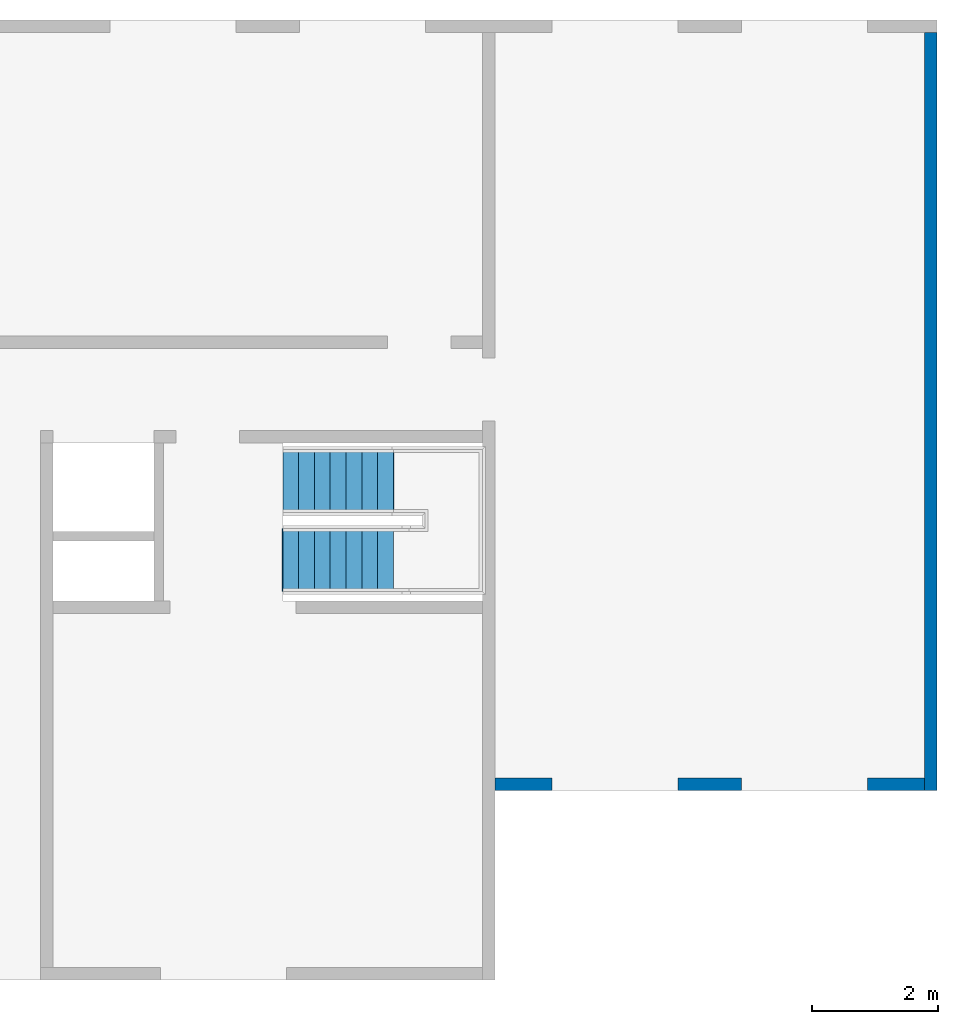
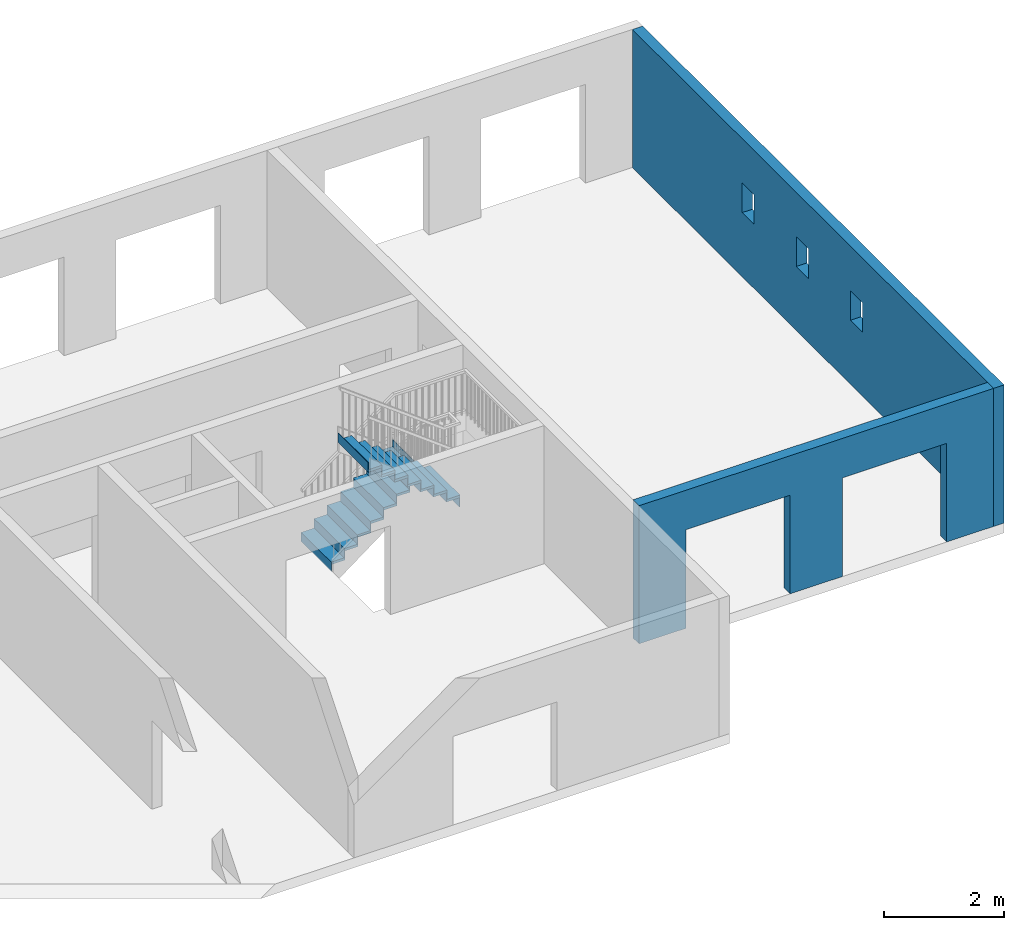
# One storey, part 2 of 3: 2 stair flights, 2 walls, 5 openings, 1 element without a shape of its own.
"""IFC2X3 building model written with IfcOpenShell, lengths in metres."""

from ifc_helpers import new_model, entity, si_unit, converted_unit, derived_unit, direction, frame, frame_2d, origin, origin_2d_with_axis, place, context, subcontext, project, spatial, rectangle, extrude, material, layer, layer_set, layer_usage, type_object, element, aggregate, save


model = new_model("IFC2X3")

# Units and contexts
model_context = context("Model", 3, precision=1e-05, world=origin(), true_north=direction((6.12303176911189e-17, 1.0)))
body_context = subcontext(model_context, "Body", "Model", "MODEL_VIEW")
ifc_project = project(units=[si_unit("LENGTHUNIT", "METRE"), si_unit("AREAUNIT", "SQUARE_METRE"), si_unit("VOLUMEUNIT", "CUBIC_METRE"), converted_unit("PLANEANGLEUNIT", "DEGREE", entity("IfcRatioMeasure", 0.0174532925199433), si_unit("PLANEANGLEUNIT", "RADIAN"), dimensions=[0, 0, 0, 0, 0, 0, 0]), si_unit("MASSUNIT", "GRAM", prefix="KILO"), derived_unit("MASSDENSITYUNIT", [(si_unit("MASSUNIT", "GRAM", prefix="KILO"), 1), (si_unit("LENGTHUNIT", "METRE"), -3)]), si_unit("TIMEUNIT", "SECOND"), si_unit("FREQUENCYUNIT", "HERTZ"), si_unit("THERMODYNAMICTEMPERATUREUNIT", "DEGREE_CELSIUS"), derived_unit("THERMALTRANSMITTANCEUNIT", [(si_unit("MASSUNIT", "GRAM", prefix="KILO"), 1), (si_unit("THERMODYNAMICTEMPERATUREUNIT", "KELVIN"), -1), (si_unit("TIMEUNIT", "SECOND"), -3)]), derived_unit("VOLUMETRICFLOWRATEUNIT", [(si_unit("LENGTHUNIT", "METRE"), 3), (si_unit("TIMEUNIT", "SECOND"), -1)]), si_unit("ELECTRICCURRENTUNIT", "AMPERE"), si_unit("ELECTRICVOLTAGEUNIT", "VOLT"), si_unit("POWERUNIT", "WATT"), si_unit("FORCEUNIT", "NEWTON"), si_unit("ILLUMINANCEUNIT", "LUX"), si_unit("LUMINOUSFLUXUNIT", "LUMEN"), si_unit("LUMINOUSINTENSITYUNIT", "CANDELA"), derived_unit("USERDEFINED", [(si_unit("MASSUNIT", "GRAM", prefix="KILO"), -1), (si_unit("LENGTHUNIT", "METRE"), -2), (si_unit("TIMEUNIT", "SECOND"), 3), (si_unit("LUMINOUSFLUXUNIT", "LUMEN"), 1)]), derived_unit("LINEARVELOCITYUNIT", [(si_unit("LENGTHUNIT", "METRE"), 1), (si_unit("TIMEUNIT", "SECOND"), -1)]), si_unit("PRESSUREUNIT", "PASCAL"), derived_unit("USERDEFINED", [(si_unit("LENGTHUNIT", "METRE"), -2), (si_unit("MASSUNIT", "GRAM", prefix="KILO"), 1), (si_unit("TIMEUNIT", "SECOND"), -2)])], contexts=[model_context])

# Site, building, storey
site_placement = place(None, origin())
site = spatial("IfcSite", under=ifc_project, at=site_placement, Name="Default", CompositionType="ELEMENT")
building_placement = place(site_placement, origin())
building = spatial("IfcBuilding", under=site, at=building_placement, CompositionType="ELEMENT")
storey_placement = place(building_placement, origin())
storey = spatial("IfcBuildingStorey", under=building, at=storey_placement, Name="Rez de Chaussée", CompositionType="ELEMENT", Elevation=0.0)

# Wall, openings
ifc_material = material(Name="Béton - Coulé sur place - Béton20")
ifc_layer = layer(ifc_material, 0.2)
ifc_layer_set = layer_set([ifc_layer], Name="Mur de base:Générique - 200 mm")
ifc_layer_usage_1 = layer_usage(ifc_layer_set, "AXIS2", "NEGATIVE", 0.1)
wall_type = type_object("IfcWallType", Name="Mur de base:Générique - 200 mm", PredefinedType="STANDARD", material=ifc_layer_set)
wall_1_placement = place(storey_placement, frame((15.7926639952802, 8.86181014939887, 0.2), z_axis=(0.0, 0.0, 1.0), x_axis=(0.0, -1.0, 0.0)))
wall_1 = element("IfcWallStandardCase", 1, at=wall_1_placement, inside=storey, type_object=wall_type, material=ifc_layer_usage_1, Name="Mur de base:Générique - 200 mm", ObjectType="Mur de base:Générique - 200 mm:1044", context=body_context, shape_type="SweptSolid", body=[
    extrude(rectangle(XDim=12.0, YDim=0.200000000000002, at=frame_2d((6.0, 0.0), x_axis=(-1.0, 0.0))), origin(), (0.0, 0.0, 1.0), 2.80000000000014),
])
opening_1_placement = place(wall_1_placement, frame((8.86181014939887, -15.7926639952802, -0.2), z_axis=(0.0, 0.0, 1.0), x_axis=(0.0, 1.0, 0.0)))
element("IfcOpeningElement", 2, at=opening_1_placement, cuts=wall_1, Name="Mur de base:Générique - 200 mm", ObjectType="Opening", context=body_context, shape_type="SweptSolid", body=[
    extrude(rectangle(XDim=0.6, YDim=0.4, at=frame_2d((0.0, 0.0), x_axis=(0.0, 1.0))), frame((14.1686639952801, 3.21181014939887, 1.8), z_axis=(1.0, 0.0, 0.0), x_axis=(0.0, -1.0, 0.0)), (0.0, 0.0, 1.0), 3.048),
])
opening_2_placement = place(wall_1_placement, frame((8.86181014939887, -15.7926639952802, -0.2), z_axis=(0.0, 0.0, 1.0), x_axis=(0.0, 1.0, 0.0)))
element("IfcOpeningElement", 3, at=opening_2_placement, cuts=wall_1, Name="Mur de base:Générique - 200 mm", ObjectType="Opening", context=body_context, shape_type="SweptSolid", body=[
    extrude(rectangle(XDim=0.6, YDim=0.400000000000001, at=frame_2d((-8.04911692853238e-16, 0.0), x_axis=(0.0, 1.0))), frame((14.1686639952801, 5.01181014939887, 1.8), z_axis=(1.0, 0.0, 0.0), x_axis=(0.0, -1.0, 0.0)), (0.0, 0.0, 1.0), 3.048),
])
opening_3_placement = place(wall_1_placement, frame((8.86181014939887, -15.7926639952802, -0.2), z_axis=(0.0, 0.0, 1.0), x_axis=(0.0, 1.0, 0.0)))
element("IfcOpeningElement", 4, at=opening_3_placement, cuts=wall_1, Name="Mur de base:Générique - 200 mm", ObjectType="Opening", context=body_context, shape_type="SweptSolid", body=[
    extrude(rectangle(XDim=0.6, YDim=0.4, at=frame_2d((-6.93889390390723e-17, 0.0), x_axis=(0.0, 1.0))), frame((14.1686639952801, 1.41181014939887, 1.8), z_axis=(1.0, 0.0, 0.0), x_axis=(0.0, -1.0, 0.0)), (0.0, 0.0, 1.0), 3.048),
])

ifc_layer_usage_2 = layer_usage(ifc_layer_set, "AXIS2", "NEGATIVE", 0.1)
wall_2_placement = place(storey_placement, frame((15.6926639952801, -3.03818985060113, 0.2), z_axis=(0.0, 0.0, 1.0), x_axis=(-1.0, 0.0, 0.0)))
wall_2 = element("IfcWallStandardCase", 5, at=wall_2_placement, inside=storey, type_object=wall_type, material=ifc_layer_usage_2, Name="Mur de base:Générique - 200 mm", ObjectType="Mur de base:Générique - 200 mm:1044", context=body_context, shape_type="SweptSolid", body=[
    extrude(rectangle(XDim=6.8, YDim=0.2, at=frame_2d((3.4, 2.22044604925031e-16), x_axis=(-1.0, 0.0))), origin(), (0.0, 0.0, 1.0), 2.80000000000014),
])
opening_4_placement = place(wall_2_placement, frame((15.6926639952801, -3.03818985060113, -0.2), z_axis=(0.0, 0.0, 1.0), x_axis=(-1.0, 0.0, 0.0)))
element("IfcOpeningElement", 6, at=opening_4_placement, cuts=wall_2, Name="Mur de base:Générique - 200 mm", ObjectType="Opening", context=body_context, shape_type="SweptSolid", body=[
    extrude(rectangle(XDim=2.0, YDim=2.0, at=frame_2d((0.0, 0.0), x_axis=(0.0, 1.0))), frame((10.7926639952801, -1.41418985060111, 1.2), z_axis=(0.0, -1.0, 0.0), x_axis=(-1.0, 0.0, 0.0)), (0.0, 0.0, 1.0), 3.048),
])
opening_5_placement = place(wall_2_placement, frame((15.6926639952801, -3.03818985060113, -0.2), z_axis=(0.0, 0.0, 1.0), x_axis=(-1.0, 0.0, 0.0)))
element("IfcOpeningElement", 7, at=opening_5_placement, cuts=wall_2, Name="Mur de base:Générique - 200 mm", ObjectType="Opening", context=body_context, shape_type="SweptSolid", body=[
    extrude(rectangle(XDim=2.0, YDim=2.0, at=frame_2d((0.0, 0.0), x_axis=(0.0, 1.0))), frame((13.7926639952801, -1.41418985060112, 1.2), z_axis=(0.0, -1.0, 0.0), x_axis=(-1.0, 0.0, 0.0)), (0.0, 0.0, 1.0), 3.048),
])

# Stair, stair flights
stair_placement = place(storey_placement, origin())
stair = element("IfcStair", 8, at=stair_placement, inside=storey, Name="Escalier assemblé:Escalier", ObjectType="Escalier assemblé:Contremarche 190 mm max marche 250\xa0mm", ShapeType="NOTDEFINED")
stair_flight_1_placement = place(stair_placement, origin())
stair_flight_1 = element("IfcStairFlight", 9, at=stair_flight_1_placement, Name="Escalier assemblé:Escalier:467169 Run 1", ObjectType="Escalier assemblé:Contremarche 190 mm max marche 250\xa0mm", NumberOfRiser=8, NumberOfTreads=7, RiserHeight=0.617569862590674, TreadLength=0.820209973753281, context=body_context, shape_type="SweptSolid", body=[
    extrude(rectangle(XDim=1.0, YDim=0.0125000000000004, at=frame_2d((0.0, -5.41233724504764e-16), x_axis=(1.0, 0.0))), frame((5.53891399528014, 1.76181014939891, 0.176470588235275), z_axis=(0.0, 0.0, 1.0), x_axis=(0.0, 1.0, 0.0)), (0.0, 0.0, 1.0), 0.138235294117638),
    extrude(rectangle(XDim=0.249999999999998, YDim=1.0, at=frame_2d((-5.41233724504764e-16, 1.66533453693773e-16), x_axis=(1.0, 0.0))), frame((5.65766399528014, 1.76181014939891, 0.314705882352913), z_axis=(0.0, 0.0, 1.0), x_axis=(-1.0, 0.0, 0.0)), (0.0, 0.0, 1.0), 0.05),
    extrude(rectangle(XDim=1.0, YDim=0.0125000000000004, at=frame_2d((0.0, -5.41233724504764e-16), x_axis=(1.0, 0.0))), frame((5.78891399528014, 1.76181014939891, 0.314705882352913), z_axis=(0.0, 0.0, 1.0), x_axis=(0.0, 1.0, 0.0)), (0.0, 0.0, 1.0), 0.188235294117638),
    extrude(rectangle(XDim=0.250000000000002, YDim=1.0, at=frame_2d((0.0, 1.66533453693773e-16), x_axis=(1.0, 0.0))), frame((5.90766399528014, 1.76181014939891, 0.50294117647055), z_axis=(0.0, 0.0, 1.0), x_axis=(-1.0, 0.0, 0.0)), (0.0, 0.0, 1.0), 0.05),
    extrude(rectangle(XDim=1.0, YDim=0.0125000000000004, at=frame_2d((0.0, -5.41233724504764e-16), x_axis=(1.0, 0.0))), frame((6.03891399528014, 1.76181014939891, 0.50294117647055), z_axis=(0.0, 0.0, 1.0), x_axis=(0.0, 1.0, 0.0)), (0.0, 0.0, 1.0), 0.188235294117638),
    extrude(rectangle(XDim=0.250000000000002, YDim=1.0, at=frame_2d((0.0, -1.66533453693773e-16), x_axis=(1.0, 0.0))), frame((6.15766399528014, 1.76181014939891, 0.691176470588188), z_axis=(0.0, 0.0, 1.0), x_axis=(-1.0, 0.0, 0.0)), (0.0, 0.0, 1.0), 0.05),
    extrude(rectangle(XDim=1.0, YDim=0.0125000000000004, at=frame_2d((0.0, -5.41233724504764e-16), x_axis=(1.0, 0.0))), frame((6.28891399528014, 1.7618101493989, 0.691176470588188), z_axis=(0.0, 0.0, 1.0), x_axis=(0.0, 1.0, 0.0)), (0.0, 0.0, 1.0), 0.188235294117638),
    extrude(rectangle(XDim=0.250000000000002, YDim=1.0, at=frame_2d((0.0, 1.66533453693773e-16), x_axis=(1.0, 0.0))), frame((6.40766399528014, 1.7618101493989, 0.879411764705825), z_axis=(0.0, 0.0, 1.0), x_axis=(-1.0, 0.0, 0.0)), (0.0, 0.0, 1.0), 0.05),
    extrude(rectangle(XDim=1.0, YDim=0.0125000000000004, at=frame_2d((0.0, -5.41233724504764e-16), x_axis=(1.0, 0.0))), frame((6.53891399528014, 1.7618101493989, 0.879411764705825), z_axis=(0.0, 0.0, 1.0), x_axis=(0.0, 1.0, 0.0)), (0.0, 0.0, 1.0), 0.188235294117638),
    extrude(rectangle(XDim=0.250000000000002, YDim=1.0, at=frame_2d((0.0, -1.66533453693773e-16), x_axis=(1.0, 0.0))), frame((6.65766399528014, 1.7618101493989, 1.06764705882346), z_axis=(0.0, 0.0, 1.0), x_axis=(-1.0, 0.0, 0.0)), (0.0, 0.0, 1.0), 0.05),
    extrude(rectangle(XDim=1.0, YDim=0.0125000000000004, at=frame_2d((0.0, 5.41233724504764e-16), x_axis=(1.0, 0.0))), frame((6.78891399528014, 1.7618101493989, 1.06764705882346), z_axis=(0.0, 0.0, 1.0), x_axis=(0.0, 1.0, 0.0)), (0.0, 0.0, 1.0), 0.188235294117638),
    extrude(rectangle(XDim=0.250000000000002, YDim=1.0, at=frame_2d((0.0, 1.66533453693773e-16), x_axis=(1.0, 0.0))), frame((6.90766399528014, 1.7618101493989, 1.2558823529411), z_axis=(0.0, 0.0, 1.0), x_axis=(-1.0, 0.0, 0.0)), (0.0, 0.0, 1.0), 0.05),
    extrude(rectangle(XDim=1.0, YDim=0.0125000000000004, at=frame_2d((0.0, -5.41233724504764e-16), x_axis=(1.0, 0.0))), frame((7.03891399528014, 1.7618101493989, 1.2558823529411), z_axis=(0.0, 0.0, 1.0), x_axis=(0.0, 1.0, 0.0)), (0.0, 0.0, 1.0), 0.188235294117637),
    extrude(rectangle(XDim=0.250000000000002, YDim=1.0, at=frame_2d((-1.08246744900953e-15, -1.66533453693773e-16), x_axis=(1.0, 0.0))), frame((7.15766399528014, 1.7618101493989, 1.44411764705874), z_axis=(0.0, 0.0, 1.0), x_axis=(-1.0, 0.0, 0.0)), (0.0, 0.0, 1.0), 0.05),
    extrude(rectangle(XDim=1.0, YDim=0.0125000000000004, at=origin_2d_with_axis()), frame((7.28891399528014, 1.7618101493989, 1.44411764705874), z_axis=(0.0, 0.0, 1.0), x_axis=(0.0, 1.0, 0.0)), (0.0, 0.0, 1.0), 0.188235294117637),
])
stair_flight_2_placement = place(stair_placement, origin())
stair_flight_2 = element("IfcStairFlight", 10, at=stair_flight_2_placement, Name="Escalier assemblé:Escalier:467169 Run 2", ObjectType="Escalier assemblé:Contremarche 190 mm max marche 250\xa0mm", NumberOfRiser=8, NumberOfTreads=7, RiserHeight=0.617569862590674, TreadLength=0.820209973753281, context=body_context, shape_type="SweptSolid", body=[
    extrude(rectangle(XDim=1.0, YDim=0.0125000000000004, at=frame_2d((0.0, -1.08290112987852e-15), x_axis=(1.0, 0.0))), frame((7.27641399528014, 0.511810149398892, 1.63235294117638), z_axis=(0.0, 0.0, 1.0), x_axis=(0.0, -1.0, 0.0)), (0.0, 0.0, 1.0), 0.188235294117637),
    extrude(rectangle(XDim=0.249999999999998, YDim=1.0, at=frame_2d((5.41233724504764e-16, -2.77555756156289e-17), x_axis=(1.0, 0.0))), frame((7.15766399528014, 0.511810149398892, 1.82058823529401)), (0.0, 0.0, 1.0), 0.05),
    extrude(rectangle(XDim=1.0, YDim=0.0125000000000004, at=origin_2d_with_axis()), frame((7.02641399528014, 0.511810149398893, 1.82058823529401), z_axis=(0.0, 0.0, 1.0), x_axis=(0.0, -1.0, 0.0)), (0.0, 0.0, 1.0), 0.188235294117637),
    extrude(rectangle(XDim=0.250000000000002, YDim=1.0, at=frame_2d((5.41233724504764e-16, -2.77555756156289e-17), x_axis=(1.0, 0.0))), frame((6.90766399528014, 0.511810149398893, 2.00882352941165)), (0.0, 0.0, 1.0), 0.05),
    extrude(rectangle(XDim=1.0, YDim=0.0125000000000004, at=frame_2d((0.0, 1.08290112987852e-15), x_axis=(1.0, 0.0))), frame((6.77641399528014, 0.511810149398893, 2.00882352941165), z_axis=(0.0, 0.0, 1.0), x_axis=(0.0, -1.0, 0.0)), (0.0, 0.0, 1.0), 0.188235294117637),
    extrude(rectangle(XDim=0.250000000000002, YDim=1.0, at=frame_2d((-5.41233724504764e-16, 2.77555756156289e-17), x_axis=(1.0, 0.0))), frame((6.65766399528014, 0.511810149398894, 2.19705882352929)), (0.0, 0.0, 1.0), 0.05),
    extrude(rectangle(XDim=1.0, YDim=0.0125000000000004, at=origin_2d_with_axis()), frame((6.52641399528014, 0.511810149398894, 2.19705882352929), z_axis=(0.0, 0.0, 1.0), x_axis=(0.0, -1.0, 0.0)), (0.0, 0.0, 1.0), 0.188235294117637),
    extrude(rectangle(XDim=0.250000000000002, YDim=1.0, at=frame_2d((-5.41233724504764e-16, 2.77555756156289e-17), x_axis=(1.0, 0.0))), frame((6.40766399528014, 0.511810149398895, 2.38529411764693)), (0.0, 0.0, 1.0), 0.05),
    extrude(rectangle(XDim=1.0, YDim=0.0125000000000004, at=origin_2d_with_axis()), frame((6.27641399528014, 0.511810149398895, 2.38529411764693), z_axis=(0.0, 0.0, 1.0), x_axis=(0.0, -1.0, 0.0)), (0.0, 0.0, 1.0), 0.188235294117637),
    extrude(rectangle(XDim=0.250000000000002, YDim=1.0, at=frame_2d((-5.41233724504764e-16, 2.77555756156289e-17), x_axis=(1.0, 0.0))), frame((6.15766399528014, 0.511810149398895, 2.57352941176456)), (0.0, 0.0, 1.0), 0.05),
    extrude(rectangle(XDim=1.0, YDim=0.0125000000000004, at=origin_2d_with_axis()), frame((6.02641399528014, 0.511810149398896, 2.57352941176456), z_axis=(0.0, 0.0, 1.0), x_axis=(0.0, -1.0, 0.0)), (0.0, 0.0, 1.0), 0.188235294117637),
    extrude(rectangle(XDim=0.250000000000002, YDim=1.0, at=frame_2d((-5.41233724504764e-16, 0.0), x_axis=(1.0, 0.0))), frame((5.90766399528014, 0.511810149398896, 2.7617647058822)), (0.0, 0.0, 1.0), 0.05),
    extrude(rectangle(XDim=1.0, YDim=0.0125000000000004, at=origin_2d_with_axis()), frame((5.77641399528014, 0.511810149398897, 2.7617647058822), z_axis=(0.0, 0.0, 1.0), x_axis=(0.0, -1.0, 0.0)), (0.0, 0.0, 1.0), 0.188235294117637),
    extrude(rectangle(XDim=0.250000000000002, YDim=1.0, at=frame_2d((-5.41233724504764e-16, 0.0), x_axis=(1.0, 0.0))), frame((5.65766399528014, 0.511810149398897, 2.94999999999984)), (0.0, 0.0, 1.0), 0.05),
    extrude(rectangle(XDim=1.0, YDim=0.0125000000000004, at=frame_2d((0.0, -1.08290112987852e-15), x_axis=(1.0, 0.0))), frame((5.52641399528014, 0.511810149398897, 2.94999999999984), z_axis=(0.0, 0.0, 1.0), x_axis=(0.0, -1.0, 0.0)), (0.0, 0.0, 1.0), 0.188235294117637),
])
aggregate(stair, [stair_flight_1, stair_flight_2])

save(model, "model.ifc")
